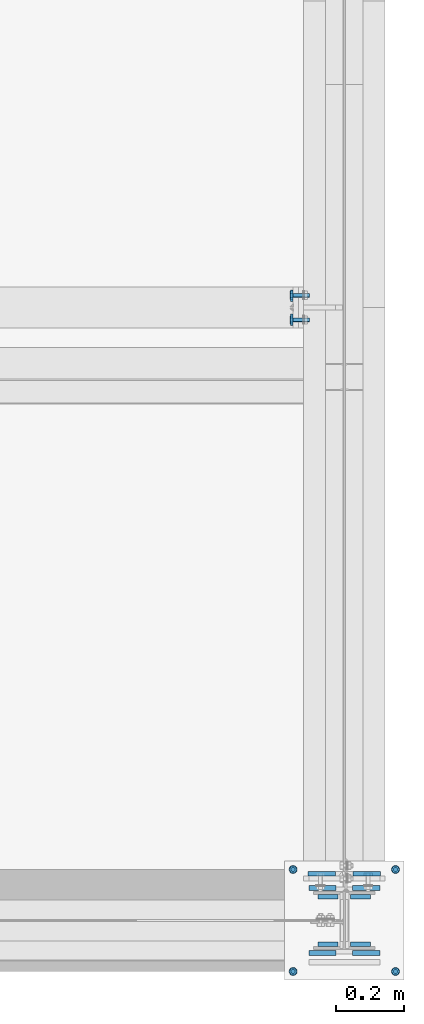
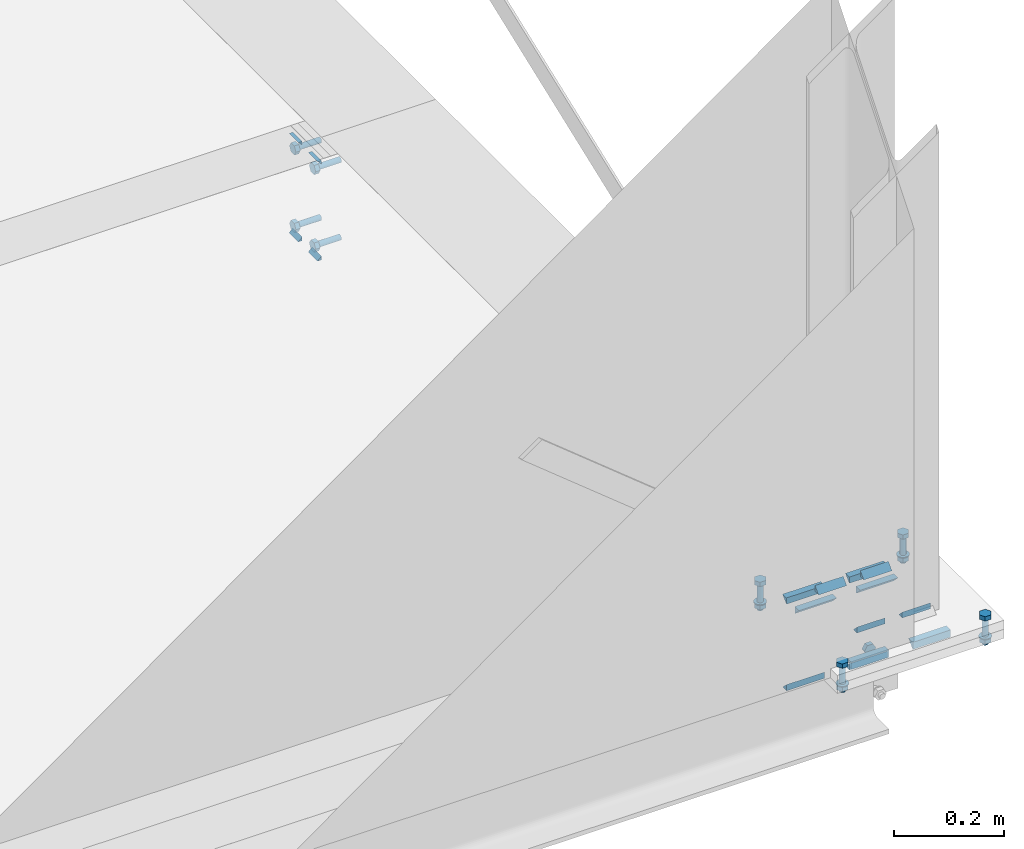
# One storey, part 55 of 66: 28 fasteners, 25 mechanical fasteners.
"""IFC4 building model written with IfcOpenShell, lengths in metres."""

from ifc_helpers import new_model, si_unit, frame, origin_with_axes, place, context, project, spatial, polyline, outline, extrude, type_object, element, save


model = new_model("IFC4")

# Units and contexts
model_context = context("Model", 3, precision=1e-05, world=origin_with_axes())
ifc_project = project(units=[si_unit("LENGTHUNIT", "METRE"), si_unit("AREAUNIT", "SQUARE_METRE"), si_unit("VOLUMEUNIT", "CUBIC_METRE"), si_unit("MASSUNIT", "GRAM", prefix="KILO"), si_unit("TIMEUNIT", "SECOND"), si_unit("PLANEANGLEUNIT", "RADIAN"), si_unit("SOLIDANGLEUNIT", "STERADIAN"), si_unit("THERMODYNAMICTEMPERATUREUNIT", "DEGREE_CELSIUS")], contexts=[model_context])

# Site, building, storey
placement_1 = place(None, origin_with_axes())
site = spatial("IfcSite", under=ifc_project, at=placement_1, Name="Italia", CompositionType="ELEMENT")
building = spatial("IfcBuilding", under=site, at=placement_1, Name="Uffici", CompositionType="ELEMENT")
storey_placement = place(None, frame((0.0, 0.0, 3.299999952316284), z_axis=(0.0, 0.0, 1.0), x_axis=(1.0, 0.0, 0.0)))
storey = spatial("IfcBuildingStorey", under=building, at=storey_placement, Name="Storey 1", CompositionType="ELEMENT", Elevation=3.299999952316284)

# Fasteners
fastener_type_1 = type_object("IfcFastenerType", Name="Collegamenti -005_-004 -015_-014 0115_0114", PredefinedType="WELD")
placement_2 = place(placement_1, origin_with_axes())
fastener_1_placement = place(placement_2, origin_with_axes())
element("IfcFastener", 1, at=fastener_1_placement, inside=storey, type_object=fastener_type_1, Name="Collegamenti -005_-004 -015_-014 0115_0114", context=model_context, shape_type="SweptSolid", body=[
    extrude(outline(polyline([(0.0, 0.0), (-0.00817299, 0.00792813), (0.0, 0.00792813), (0.0, 0.0)])), frame((13.8201, 1.77862, 3.28232), z_axis=(0.0, -1.0, 0.0), x_axis=(1.0, 0.0, 0.0)), (0.0, 0.0, 1.0), 0.0339999),
])
fastener_type_2 = type_object("IfcFastenerType", Name="Collegamenti -005_-004 -015_-014 0115_0114", PredefinedType="WELD")
fastener_2_placement = place(placement_2, origin_with_axes())
element("IfcFastener", 2, at=fastener_2_placement, inside=storey, type_object=fastener_type_2, Name="Collegamenti -005_-004 -015_-014 0115_0114", context=model_context, shape_type="SweptSolid", body=[
    extrude(outline(polyline([(0.0, 0.0), (0.00817299, -0.00792813), (0.0, -0.00792813), (0.0, 0.0)])), frame((13.8201, 1.74462, 3.07768), z_axis=(0.0, 1.0, 0.0), x_axis=(-1.0, 0.0, 0.0)), (0.0, 0.0, 1.0), 0.0339999),
])
fastener_type_3 = type_object("IfcFastenerType", Name="Collegamenti -005_-004 -015_-014 0115_0114", PredefinedType="WELD")
fastener_3_placement = place(placement_2, origin_with_axes())
element("IfcFastener", 3, at=fastener_3_placement, inside=storey, type_object=fastener_type_3, Name="Collegamenti -005_-004 -015_-014 0115_0114", context=model_context, shape_type="SweptSolid", body=[
    extrude(outline(polyline([(0.0, 0.0), (0.00817299, -0.00792813), (0.0, -0.00792813), (0.0, 0.0)])), frame((13.8201, 1.81472, 3.07768), z_axis=(0.0, 1.0, 0.0), x_axis=(-1.0, 0.0, 0.0)), (0.0, 0.0, 1.0), 0.0339999),
])
fastener_type_4 = type_object("IfcFastenerType", Name="Collegamenti -005_-004 -015_-014 0115_0114", PredefinedType="WELD")
fastener_4_placement = place(placement_2, origin_with_axes())
element("IfcFastener", 4, at=fastener_4_placement, inside=storey, type_object=fastener_type_4, Name="Collegamenti -005_-004 -015_-014 0115_0114", context=model_context, shape_type="SweptSolid", body=[
    extrude(outline(polyline([(0.0, 0.0), (-0.00817299, 0.00792813), (0.0, 0.00792813), (0.0, 0.0)])), frame((13.8201, 1.84872, 3.28232), z_axis=(0.0, -1.0, 0.0), x_axis=(1.0, 0.0, 0.0)), (0.0, 0.0, 1.0), 0.0339999),
])
fastener_type_5 = type_object("IfcFastenerType", Name="Collegamenti -005_-004 -015_-014 0115_0114", PredefinedType="WELD")
fastener_5_placement = place(placement_2, origin_with_axes())
element("IfcFastener", 5, at=fastener_5_placement, inside=storey, type_object=fastener_type_5, Name="Collegamenti -005_-004 -015_-014 0115_0114", context=model_context, shape_type="SweptSolid", body=[
    extrude(outline(polyline([(0.0, 0.0), (-0.00817299, 0.00792813), (0.0, 0.00792813), (0.0, 0.0)])), frame((13.8201, 1.77862, 3.28232), z_axis=(0.0, -1.0, 0.0), x_axis=(1.0, 0.0, 0.0)), (0.0, 0.0, 1.0), 0.0339999),
])
fastener_type_6 = type_object("IfcFastenerType", Name="Collegamenti -005_-004 -015_-014 0115_0114", PredefinedType="WELD")
fastener_6_placement = place(placement_2, origin_with_axes())
element("IfcFastener", 6, at=fastener_6_placement, inside=storey, type_object=fastener_type_6, Name="Collegamenti -005_-004 -015_-014 0115_0114", context=model_context, shape_type="SweptSolid", body=[
    extrude(outline(polyline([(0.0, 0.0), (0.00817299, -0.00792813), (0.0, -0.00792813), (0.0, 0.0)])), frame((13.8201, 1.74462, 3.07768), z_axis=(0.0, 1.0, 0.0), x_axis=(-1.0, 0.0, 0.0)), (0.0, 0.0, 1.0), 0.0339999),
])
fastener_type_7 = type_object("IfcFastenerType", Name="Collegamenti -005_-004 -015_-014 0115_0114", PredefinedType="WELD")
fastener_7_placement = place(placement_2, origin_with_axes())
element("IfcFastener", 7, at=fastener_7_placement, inside=storey, type_object=fastener_type_7, Name="Collegamenti -005_-004 -015_-014 0115_0114", context=model_context, shape_type="SweptSolid", body=[
    extrude(outline(polyline([(0.0, 0.0), (0.00817299, -0.00792813), (0.0, -0.00792813), (0.0, 0.0)])), frame((13.8201, 1.81472, 3.07768), z_axis=(0.0, 1.0, 0.0), x_axis=(-1.0, 0.0, 0.0)), (0.0, 0.0, 1.0), 0.0339999),
])
fastener_type_8 = type_object("IfcFastenerType", Name="Collegamenti -005_-004 -015_-014 0115_0114", PredefinedType="WELD")
fastener_8_placement = place(placement_2, origin_with_axes())
element("IfcFastener", 8, at=fastener_8_placement, inside=storey, type_object=fastener_type_8, Name="Collegamenti -005_-004 -015_-014 0115_0114", context=model_context, shape_type="SweptSolid", body=[
    extrude(outline(polyline([(0.0, 0.0), (-0.00817299, 0.00792813), (0.0, 0.00792813), (0.0, 0.0)])), frame((13.8201, 1.84872, 3.28232), z_axis=(0.0, -1.0, 0.0), x_axis=(1.0, 0.0, 0.0)), (0.0, 0.0, 1.0), 0.0339999),
])

# Mechanical fasteners
mechanical_fastener_type_1 = type_object("IfcMechanicalFastenerType", Name="Collegamenti -005_-004 -015_-014 0115_0114", PredefinedType="BOLT")
mechanical_fastener_1_placement = place(placement_2, origin_with_axes())
element("IfcMechanicalFastener", 9, at=mechanical_fastener_1_placement, inside=storey, type_object=mechanical_fastener_type_1, Name="Collegamenti -005_-004 -015_-014 0115_0114", NominalDiameter=0.0119999, context=model_context, shape_type="SweptSolid", body=[
    extrude(outline(polyline([(0.0, 0.0), (-0.0120001, 0.0), (-0.018, 0.0103924), (-0.0120001, 0.0207846), (0.0, 0.0207846), (0.00599992, 0.0103924), (0.0, 0.0)])), frame((13.82, 1.82667, 3.08361), z_axis=(-1.0, 0.0, 0.0), x_axis=(0.0, -1.0, 0.0)), (0.0, 0.0, 1.0), 0.00960064),
])
mechanical_fastener_type_2 = type_object("IfcMechanicalFastenerType", Name="Collegamenti -005_-004 -015_-014 0115_0114", PredefinedType="BOLT")
mechanical_fastener_2_placement = place(placement_2, origin_with_axes())
element("IfcMechanicalFastener", 10, at=mechanical_fastener_2_placement, inside=storey, type_object=mechanical_fastener_type_2, Name="Collegamenti -005_-004 -015_-014 0115_0114", NominalDiameter=0.012, context=model_context, shape_type="SweptSolid", body=[
    extrude(outline(polyline([(0.0, 0.0), (-0.000204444, -0.00155282), (-0.000803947, -0.00300002), (-0.00175738, -0.00424266), (-0.00300002, -0.00519609), (-0.0044471, -0.00579548), (-0.00600004, -0.00600004), (-0.00755298, -0.00579548), (-0.00900006, -0.00519609), (-0.0102427, -0.00424266), (-0.0111961, -0.00300002), (-0.0117956, -0.00155282), (-0.0120001, 0.0), (-0.0117956, 0.00155282), (-0.0111961, 0.00300002), (-0.0102427, 0.00424266), (-0.00900006, 0.00519609), (-0.00755298, 0.00579548), (-0.00600004, 0.00600004), (-0.0044471, 0.00579548), (-0.00300002, 0.00519609), (-0.00175738, 0.00424266), (-0.000803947, 0.00300002), (-0.000204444, 0.00155282), (0.0, 0.0)])), frame((13.868, 1.82667, 3.094), z_axis=(-1.0, 0.0, 0.0), x_axis=(0.0, -1.0, 0.0)), (0.0, 0.0, 1.0), 0.0479994),
])
mechanical_fastener_type_3 = type_object("IfcMechanicalFastenerType", Name="Collegamenti -005_-004 -015_-014 0115_0114", PredefinedType="BOLT")
mechanical_fastener_3_placement = place(placement_2, origin_with_axes())
element("IfcMechanicalFastener", 11, at=mechanical_fastener_3_placement, inside=storey, type_object=mechanical_fastener_type_3, Name="Collegamenti -005_-004 -015_-014 0115_0114", NominalDiameter=0.0119999, context=model_context, shape_type="SweptSolid", body=[
    extrude(outline(polyline([(0.0, 0.0), (-0.0120001, 0.0), (-0.018, 0.0103924), (-0.0120001, 0.0207846), (0.0, 0.0207846), (0.00599992, 0.0103924), (0.0, 0.0)])), frame((13.82, 1.75467, 3.08361), z_axis=(-1.0, 0.0, 0.0), x_axis=(0.0, -1.0, 0.0)), (0.0, 0.0, 1.0), 0.00960064),
])
mechanical_fastener_type_4 = type_object("IfcMechanicalFastenerType", Name="Collegamenti -005_-004 -015_-014 0115_0114", PredefinedType="BOLT")
mechanical_fastener_4_placement = place(placement_2, origin_with_axes())
element("IfcMechanicalFastener", 12, at=mechanical_fastener_4_placement, inside=storey, type_object=mechanical_fastener_type_4, Name="Collegamenti -005_-004 -015_-014 0115_0114", NominalDiameter=0.012, context=model_context, shape_type="SweptSolid", body=[
    extrude(outline(polyline([(0.0, 0.0), (-0.000204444, -0.00155282), (-0.000803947, -0.00300002), (-0.00175738, -0.00424266), (-0.00300002, -0.00519609), (-0.0044471, -0.00579548), (-0.00600004, -0.00600004), (-0.00755298, -0.00579548), (-0.00900006, -0.00519609), (-0.0102427, -0.00424266), (-0.0111961, -0.00300002), (-0.0117956, -0.00155282), (-0.0120001, 0.0), (-0.0117956, 0.00155282), (-0.0111961, 0.00300002), (-0.0102427, 0.00424266), (-0.00900006, 0.00519609), (-0.00755298, 0.00579548), (-0.00600004, 0.00600004), (-0.0044471, 0.00579548), (-0.00300002, 0.00519609), (-0.00175738, 0.00424266), (-0.000803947, 0.00300002), (-0.000204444, 0.00155282), (0.0, 0.0)])), frame((13.868, 1.75467, 3.094), z_axis=(-1.0, 0.0, 0.0), x_axis=(0.0, -1.0, 0.0)), (0.0, 0.0, 1.0), 0.0479994),
])
mechanical_fastener_type_5 = type_object("IfcMechanicalFastenerType", Name="Collegamenti -005_-004 -015_-014 0115_0114", PredefinedType="BOLT")
mechanical_fastener_5_placement = place(placement_2, origin_with_axes())
element("IfcMechanicalFastener", 13, at=mechanical_fastener_5_placement, inside=storey, type_object=mechanical_fastener_type_5, Name="Collegamenti -005_-004 -015_-014 0115_0114", NominalDiameter=0.0119999, context=model_context, shape_type="SweptSolid", body=[
    extrude(outline(polyline([(0.0, 0.0), (-0.0120001, 0.0), (-0.018, 0.0103922), (-0.0120001, 0.0207846), (0.0, 0.0207846), (0.00599992, 0.0103922), (0.0, 0.0)])), frame((13.82, 1.82667, 3.25561), z_axis=(-1.0, 0.0, 0.0), x_axis=(0.0, -1.0, 0.0)), (0.0, 0.0, 1.0), 0.00960064),
])
mechanical_fastener_type_6 = type_object("IfcMechanicalFastenerType", Name="Collegamenti -005_-004 -015_-014 0115_0114", PredefinedType="BOLT")
mechanical_fastener_6_placement = place(placement_2, origin_with_axes())
element("IfcMechanicalFastener", 14, at=mechanical_fastener_6_placement, inside=storey, type_object=mechanical_fastener_type_6, Name="Collegamenti -005_-004 -015_-014 0115_0114", NominalDiameter=0.012, context=model_context, shape_type="SweptSolid", body=[
    extrude(outline(polyline([(0.0, 0.0), (-0.000204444, -0.00155282), (-0.000803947, -0.00300002), (-0.00175738, -0.00424266), (-0.00300002, -0.00519609), (-0.0044471, -0.00579548), (-0.00600004, -0.00600004), (-0.00755298, -0.00579548), (-0.00900006, -0.00519609), (-0.0102427, -0.00424266), (-0.0111961, -0.00300002), (-0.0117956, -0.00155282), (-0.0120001, 0.0), (-0.0117956, 0.00155282), (-0.0111961, 0.00300002), (-0.0102427, 0.00424266), (-0.00900006, 0.00519609), (-0.00755298, 0.00579548), (-0.00600004, 0.00600004), (-0.0044471, 0.00579548), (-0.00300002, 0.00519609), (-0.00175738, 0.00424266), (-0.000803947, 0.00300002), (-0.000204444, 0.00155282), (0.0, 0.0)])), frame((13.868, 1.82667, 3.266), z_axis=(-1.0, 0.0, 0.0), x_axis=(0.0, -1.0, 0.0)), (0.0, 0.0, 1.0), 0.0479994),
])
mechanical_fastener_type_7 = type_object("IfcMechanicalFastenerType", Name="Collegamenti -005_-004 -015_-014 0115_0114", PredefinedType="BOLT")
mechanical_fastener_7_placement = place(placement_2, origin_with_axes())
element("IfcMechanicalFastener", 15, at=mechanical_fastener_7_placement, inside=storey, type_object=mechanical_fastener_type_7, Name="Collegamenti -005_-004 -015_-014 0115_0114", NominalDiameter=0.0119999, context=model_context, shape_type="SweptSolid", body=[
    extrude(outline(polyline([(0.0, 0.0), (-0.0120001, 0.0), (-0.018, 0.0103922), (-0.0120001, 0.0207846), (0.0, 0.0207846), (0.00599992, 0.0103922), (0.0, 0.0)])), frame((13.82, 1.75467, 3.25561), z_axis=(-1.0, 0.0, 0.0), x_axis=(0.0, -1.0, 0.0)), (0.0, 0.0, 1.0), 0.00960064),
])
mechanical_fastener_type_8 = type_object("IfcMechanicalFastenerType", Name="Collegamenti -005_-004 -015_-014 0115_0114", PredefinedType="BOLT")
mechanical_fastener_8_placement = place(placement_2, origin_with_axes())
element("IfcMechanicalFastener", 16, at=mechanical_fastener_8_placement, inside=storey, type_object=mechanical_fastener_type_8, Name="Collegamenti -005_-004 -015_-014 0115_0114", NominalDiameter=0.012, context=model_context, shape_type="SweptSolid", body=[
    extrude(outline(polyline([(0.0, 0.0), (-0.000204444, -0.00155282), (-0.000803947, -0.00300002), (-0.00175738, -0.00424266), (-0.00300002, -0.00519609), (-0.0044471, -0.00579548), (-0.00600004, -0.00600004), (-0.00755298, -0.00579548), (-0.00900006, -0.00519609), (-0.0102427, -0.00424266), (-0.0111961, -0.00300002), (-0.0117956, -0.00155282), (-0.0120001, 0.0), (-0.0117956, 0.00155282), (-0.0111961, 0.00300002), (-0.0102427, 0.00424266), (-0.00900006, 0.00519609), (-0.00755298, 0.00579548), (-0.00600004, 0.00600004), (-0.0044471, 0.00579548), (-0.00300002, 0.00519609), (-0.00175738, 0.00424266), (-0.000803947, 0.00300002), (-0.000204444, 0.00155282), (0.0, 0.0)])), frame((13.868, 1.75467, 3.266), z_axis=(-1.0, 0.0, 0.0), x_axis=(0.0, -1.0, 0.0)), (0.0, 0.0, 1.0), 0.0479994),
])

# Fasteners
fastener_type_9 = type_object("IfcFastenerType", Name="Collegamenti 0101_0201 0102_0202 0103_0203 0104_0204 0105_0205", PredefinedType="WELD")
fastener_9_placement = place(placement_2, origin_with_axes())
element("IfcFastener", 17, at=fastener_9_placement, inside=storey, type_object=fastener_type_9, Name="Collegamenti 0101_0201 0102_0202 0103_0203 0104_0204 0105_0205", context=model_context, shape_type="SweptSolid", body=[
    extrude(outline(polyline([(0.0, 0.0), (0.0127782, 0.0131733), (0.0127782, 0.0), (0.0, 0.0)])), frame((13.988, 0.0632718, 3.31995), z_axis=(1.0, 0.0, 0.0), x_axis=(0.0, 1.0, 0.0)), (0.0, 0.0, 1.0), 0.0591002),
])
fastener_type_10 = type_object("IfcFastenerType", Name="Collegamenti 0101_0201 0102_0202 0103_0203 0104_0204 0105_0205", PredefinedType="WELD")
fastener_10_placement = place(placement_2, origin_with_axes())
element("IfcFastener", 18, at=fastener_10_placement, inside=storey, type_object=fastener_type_10, Name="Collegamenti 0101_0201 0102_0202 0103_0203 0104_0204 0105_0205", context=model_context, shape_type="SweptSolid", body=[
    extrude(outline(polyline([(0.0, 0.0), (0.0127782, 0.0131733), (0.0127782, 0.0), (0.0, 0.0)])), frame((14.0471, -0.0632718, 3.31995), z_axis=(-1.0, 0.0, 0.0), x_axis=(0.0, -1.0, 0.0)), (0.0, 0.0, 1.0), 0.0591002),
])
fastener_type_11 = type_object("IfcFastenerType", Name="Collegamenti 0101_0201 0102_0202 0103_0203 0104_0204 0105_0205", PredefinedType="WELD")
fastener_11_placement = place(placement_2, origin_with_axes())
element("IfcFastener", 19, at=fastener_11_placement, inside=storey, type_object=fastener_type_11, Name="Collegamenti 0101_0201 0102_0202 0103_0203 0104_0204 0105_0205", context=model_context, shape_type="SweptSolid", body=[
    extrude(outline(polyline([(0.0, 0.0), (0.0127782, 0.0131733), (0.0127782, 0.0), (0.0, 0.0)])), frame((13.9521, -0.0632718, 3.31995), z_axis=(-1.0, 0.0, 0.0), x_axis=(0.0, -1.0, 0.0)), (0.0, 0.0, 1.0), 0.0591002),
])
fastener_type_12 = type_object("IfcFastenerType", Name="Collegamenti 0101_0201 0102_0202 0103_0203 0104_0204 0105_0205", PredefinedType="WELD")
fastener_12_placement = place(placement_2, origin_with_axes())
element("IfcFastener", 20, at=fastener_12_placement, inside=storey, type_object=fastener_type_12, Name="Collegamenti 0101_0201 0102_0202 0103_0203 0104_0204 0105_0205", context=model_context, shape_type="SweptSolid", body=[
    extrude(outline(polyline([(0.0, 0.0), (0.0127782, 0.0131733), (0.0127782, 0.0), (0.0, 0.0)])), frame((13.893, 0.0632718, 3.31995), z_axis=(1.0, 0.0, 0.0), x_axis=(0.0, 1.0, 0.0)), (0.0, 0.0, 1.0), 0.0591002),
])
fastener_type_13 = type_object("IfcFastenerType", Name="Collegamenti 0101_0201 0102_0202 0103_0203 0104_0204 0105_0205", PredefinedType="WELD")
fastener_13_placement = place(placement_2, origin_with_axes())
element("IfcFastener", 21, at=fastener_13_placement, inside=storey, type_object=fastener_type_13, Name="Collegamenti 0101_0201 0102_0202 0103_0203 0104_0204 0105_0205", context=model_context, shape_type="SweptSolid", body=[
    extrude(outline(polyline([(0.0, 0.0), (0.0127782, 0.0131733), (0.0127782, 0.0), (0.0, 0.0)])), frame((13.988, 0.0632718, 3.31995), z_axis=(1.0, 0.0, 0.0), x_axis=(0.0, 1.0, 0.0)), (0.0, 0.0, 1.0), 0.0591002),
])
fastener_type_14 = type_object("IfcFastenerType", Name="Collegamenti 0101_0201 0102_0202 0103_0203 0104_0204 0105_0205", PredefinedType="WELD")
fastener_14_placement = place(placement_2, origin_with_axes())
element("IfcFastener", 22, at=fastener_14_placement, inside=storey, type_object=fastener_type_14, Name="Collegamenti 0101_0201 0102_0202 0103_0203 0104_0204 0105_0205", context=model_context, shape_type="SweptSolid", body=[
    extrude(outline(polyline([(0.0, 0.0), (0.0127782, 0.0131733), (0.0127782, 0.0), (0.0, 0.0)])), frame((14.0471, -0.0632718, 3.31995), z_axis=(-1.0, 0.0, 0.0), x_axis=(0.0, -1.0, 0.0)), (0.0, 0.0, 1.0), 0.0591002),
])
fastener_type_15 = type_object("IfcFastenerType", Name="Collegamenti 0101_0201 0102_0202 0103_0203 0104_0204 0105_0205", PredefinedType="WELD")
fastener_15_placement = place(placement_2, origin_with_axes())
element("IfcFastener", 23, at=fastener_15_placement, inside=storey, type_object=fastener_type_15, Name="Collegamenti 0101_0201 0102_0202 0103_0203 0104_0204 0105_0205", context=model_context, shape_type="SweptSolid", body=[
    extrude(outline(polyline([(0.0, 0.0), (0.0127782, 0.0131733), (0.0127782, 0.0), (0.0, 0.0)])), frame((13.9521, -0.0632718, 3.31995), z_axis=(-1.0, 0.0, 0.0), x_axis=(0.0, -1.0, 0.0)), (0.0, 0.0, 1.0), 0.0591002),
])
fastener_type_16 = type_object("IfcFastenerType", Name="Collegamenti 0101_0201 0102_0202 0103_0203 0104_0204 0105_0205", PredefinedType="WELD")
fastener_16_placement = place(placement_2, origin_with_axes())
element("IfcFastener", 24, at=fastener_16_placement, inside=storey, type_object=fastener_type_16, Name="Collegamenti 0101_0201 0102_0202 0103_0203 0104_0204 0105_0205", context=model_context, shape_type="SweptSolid", body=[
    extrude(outline(polyline([(0.0, 0.0), (0.0127782, 0.0131733), (0.0127782, 0.0), (0.0, 0.0)])), frame((13.893, 0.0632718, 3.31995), z_axis=(1.0, 0.0, 0.0), x_axis=(0.0, 1.0, 0.0)), (0.0, 0.0, 1.0), 0.0591002),
])
fastener_type_17 = type_object("IfcFastenerType", Name="Collegamenti 0101_0201 0102_0202 0103_0203 0104_0204 0105_0205", PredefinedType="WELD")
fastener_17_placement = place(placement_2, origin_with_axes())
element("IfcFastener", 25, at=fastener_17_placement, inside=storey, type_object=fastener_type_17, Name="Collegamenti 0101_0201 0102_0202 0103_0203 0104_0204 0105_0205", context=model_context, shape_type="SweptSolid", body=[
    extrude(outline(polyline([(0.0, 0.0), (0.0153518, -0.0158267), (0.0153518, 0.0), (0.0, 0.0)])), frame((13.9947, 0.0875982, 3.27995), z_axis=(1.0, -9.3895729e-08, 0.0), x_axis=(9.3895729e-08, 1.0, 0.0)), (0.0, 0.0, 1.0), 0.0793495),
])
fastener_type_18 = type_object("IfcFastenerType", Name="Collegamenti 0101_0201 0102_0202 0103_0203 0104_0204 0105_0205", PredefinedType="WELD")
fastener_18_placement = place(placement_2, origin_with_axes())
element("IfcFastener", 26, at=fastener_18_placement, inside=storey, type_object=fastener_type_18, Name="Collegamenti 0101_0201 0102_0202 0103_0203 0104_0204 0105_0205", context=model_context, shape_type="SweptSolid", body=[
    extrude(outline(polyline([(0.0, 0.0), (0.0153518, -0.0158267), (0.0153518, 0.0), (0.0, 0.0)])), frame((14.0741, -0.0875982, 3.27995), z_axis=(-1.0, 9.3895729e-08, 0.0), x_axis=(-9.3895729e-08, -1.0, 0.0)), (0.0, 0.0, 1.0), 0.0793495),
])
fastener_type_19 = type_object("IfcFastenerType", Name="Collegamenti 0101_0201 0102_0202 0103_0203 0104_0204 0105_0205", PredefinedType="WELD")
fastener_19_placement = place(placement_2, origin_with_axes())
element("IfcFastener", 27, at=fastener_19_placement, inside=storey, type_object=fastener_type_19, Name="Collegamenti 0101_0201 0102_0202 0103_0203 0104_0204 0105_0205", context=model_context, shape_type="SweptSolid", body=[
    extrude(outline(polyline([(0.0, 0.0), (0.0153518, -0.0158267), (0.0153518, 0.0), (0.0, 0.0)])), frame((13.9453, -0.0875982, 3.27995), z_axis=(-1.0, 9.3895729e-08, 0.0), x_axis=(-9.3895729e-08, -1.0, 0.0)), (0.0, 0.0, 1.0), 0.0793495),
])
fastener_type_20 = type_object("IfcFastenerType", Name="Collegamenti 0101_0201 0102_0202 0103_0203 0104_0204 0105_0205", PredefinedType="WELD")
fastener_20_placement = place(placement_2, origin_with_axes())
element("IfcFastener", 28, at=fastener_20_placement, inside=storey, type_object=fastener_type_20, Name="Collegamenti 0101_0201 0102_0202 0103_0203 0104_0204 0105_0205", context=model_context, shape_type="SweptSolid", body=[
    extrude(outline(polyline([(0.0, 0.0), (0.0153518, -0.0158267), (0.0153518, 0.0), (0.0, 0.0)])), frame((13.866, 0.0875982, 3.27995), z_axis=(1.0, -9.3895729e-08, 0.0), x_axis=(9.3895729e-08, 1.0, 0.0)), (0.0, 0.0, 1.0), 0.0793495),
])

# Mechanical fasteners
mechanical_fastener_type_9 = type_object("IfcMechanicalFastenerType", Name="Collegamenti 0101_0201 0102_0202 0103_0203 0104_0204 0105_0205", PredefinedType="BOLT")
mechanical_fastener_9_placement = place(placement_2, origin_with_axes())
element("IfcMechanicalFastener", 29, at=mechanical_fastener_9_placement, inside=storey, type_object=mechanical_fastener_type_9, Name="Collegamenti 0101_0201 0102_0202 0103_0203 0104_0204 0105_0205", NominalDiameter=0.0119998, context=model_context, shape_type="SweptSolid", body=[
    extrude(outline(polyline([(0.0, 0.0), (0.0, 0.0120001), (0.0103923, 0.0179996), (0.0207846, 0.0120001), (0.0207846, 0.0), (0.0103923, -0.00599957), (0.0, 0.0)])), frame((13.826, -0.159892, 3.32), z_axis=(0.0, 0.0, 1.0), x_axis=(0.0, 1.0, 0.0)), (0.0, 0.0, 1.0), 0.00959992),
])
mechanical_fastener_type_10 = type_object("IfcMechanicalFastenerType", Name="Collegamenti 0101_0201 0102_0202 0103_0203 0104_0204 0105_0205", PredefinedType="BOLT")
mechanical_fastener_10_placement = place(placement_2, origin_with_axes())
element("IfcMechanicalFastener", 30, at=mechanical_fastener_10_placement, inside=storey, type_object=mechanical_fastener_type_10, Name="Collegamenti 0101_0201 0102_0202 0103_0203 0104_0204 0105_0205", NominalDiameter=0.012, context=model_context, shape_type="SweptSolid", body=[
    extrude(outline(polyline([(0.0, 0.0), (-0.000204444, -0.00155258), (-0.000803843, -0.00300026), (-0.00175735, -0.0042429), (-0.00299999, -0.00519657), (-0.00444709, -0.00579548), (-0.006, -0.00599957), (-0.00755291, -0.00579548), (-0.009, -0.00519657), (-0.0102426, -0.0042429), (-0.0111962, -0.00300026), (-0.0117956, -0.00155258), (-0.012, 0.0), (-0.0117956, 0.00155258), (-0.0111962, 0.00300026), (-0.0102426, 0.0042429), (-0.009, 0.00519657), (-0.00755291, 0.00579548), (-0.006, 0.00599957), (-0.00444709, 0.00579548), (-0.00299999, 0.00519657), (-0.00175735, 0.0042429), (-0.000803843, 0.00300026), (-0.000204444, 0.00155258), (0.0, 0.0)])), frame((13.82, -0.1435, 3.262), z_axis=(0.0, 0.0, 1.0), x_axis=(0.0, 1.0, 0.0)), (0.0, 0.0, 1.0), 0.0580001),
])
mechanical_fastener_type_11 = type_object("IfcMechanicalFastenerType", Name="Collegamenti 0101_0201 0102_0202 0103_0203 0104_0204 0105_0205", PredefinedType="BOLT")
mechanical_fastener_11_placement = place(placement_2, origin_with_axes())
element("IfcMechanicalFastener", 31, at=mechanical_fastener_11_placement, inside=storey, type_object=mechanical_fastener_type_11, Name="Collegamenti 0101_0201 0102_0202 0103_0203 0104_0204 0105_0205", NominalDiameter=0.0119998, context=model_context, shape_type="SweptSolid", body=[
    extrude(outline(polyline([(0.0, 0.0), (0.0, 0.0120001), (0.0103923, 0.0179996), (0.0207846, 0.0120001), (0.0207846, 0.0), (0.0103923, -0.00599957), (0.0, 0.0)])), frame((13.826, -0.159892, 3.2684), z_axis=(0.0, 0.0, 1.0), x_axis=(0.0, 1.0, 0.0)), (0.0, 0.0, 1.0), 0.00959992),
])
mechanical_fastener_type_12 = type_object("IfcMechanicalFastenerType", Name="Collegamenti 0101_0201 0102_0202 0103_0203 0104_0204 0105_0205", PredefinedType="BOLT")
mechanical_fastener_12_placement = place(placement_2, origin_with_axes())
element("IfcMechanicalFastener", 32, at=mechanical_fastener_12_placement, inside=storey, type_object=mechanical_fastener_type_12, Name="Collegamenti 0101_0201 0102_0202 0103_0203 0104_0204 0105_0205", NominalDiameter=0.024, context=model_context, shape_type="SweptSolid", body=[
    extrude(outline(polyline([(0.0, 0.0), (-0.000408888, -0.00310612), (-0.00160769, -0.00599957), (-0.00351471, -0.00848484), (-0.006, -0.0103922), (-0.00889416, -0.011591), (-0.012, -0.0120001), (-0.0151058, -0.011591), (-0.018, -0.0103922), (-0.0204853, -0.00848484), (-0.0223923, -0.00599957), (-0.0235911, -0.00310612), (-0.024, 0.0), (-0.0235911, 0.00310612), (-0.0223923, 0.00599957), (-0.0204853, 0.00848484), (-0.018, 0.0103922), (-0.0151058, 0.011591), (-0.012, 0.0120001), (-0.00889416, 0.011591), (-0.006, 0.0103922), (-0.00351471, 0.00848484), (-0.00160769, 0.00599957), (-0.000408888, 0.00310612), (0.0, 0.0)])), frame((13.82, -0.1375, 3.278), z_axis=(0.0, 0.0, 1.0), x_axis=(0.0, 1.0, 0.0)), (0.0, 0.0, 1.0), 0.00200009),
])
mechanical_fastener_type_13 = type_object("IfcMechanicalFastenerType", Name="Collegamenti 0101_0201 0102_0202 0103_0203 0104_0204 0105_0205", PredefinedType="BOLT")
mechanical_fastener_13_placement = place(placement_2, origin_with_axes())
element("IfcMechanicalFastener", 33, at=mechanical_fastener_13_placement, inside=storey, type_object=mechanical_fastener_type_13, Name="Collegamenti 0101_0201 0102_0202 0103_0203 0104_0204 0105_0205", NominalDiameter=0.0119998, context=model_context, shape_type="SweptSolid", body=[
    extrude(outline(polyline([(0.0, 0.0), (0.0, 0.0120001), (0.0103923, 0.0179996), (0.0207846, 0.0120001), (0.0207846, 0.0), (0.0103923, -0.00599957), (0.0, 0.0)])), frame((14.126, -0.159892, 3.32), z_axis=(0.0, 0.0, 1.0), x_axis=(0.0, 1.0, 0.0)), (0.0, 0.0, 1.0), 0.00959992),
])
mechanical_fastener_type_14 = type_object("IfcMechanicalFastenerType", Name="Collegamenti 0101_0201 0102_0202 0103_0203 0104_0204 0105_0205", PredefinedType="BOLT")
mechanical_fastener_14_placement = place(placement_2, origin_with_axes())
element("IfcMechanicalFastener", 34, at=mechanical_fastener_14_placement, inside=storey, type_object=mechanical_fastener_type_14, Name="Collegamenti 0101_0201 0102_0202 0103_0203 0104_0204 0105_0205", NominalDiameter=0.012, context=model_context, shape_type="SweptSolid", body=[
    extrude(outline(polyline([(0.0, 0.0), (-0.000204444, -0.00155258), (-0.000803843, -0.00300026), (-0.00175735, -0.0042429), (-0.00299999, -0.00519657), (-0.00444709, -0.00579548), (-0.006, -0.00599957), (-0.00755291, -0.00579548), (-0.009, -0.00519657), (-0.0102426, -0.0042429), (-0.0111962, -0.00300026), (-0.0117956, -0.00155258), (-0.012, 0.0), (-0.0117956, 0.00155258), (-0.0111962, 0.00300026), (-0.0102426, 0.0042429), (-0.009, 0.00519657), (-0.00755291, 0.00579548), (-0.006, 0.00599957), (-0.00444709, 0.00579548), (-0.00299999, 0.00519657), (-0.00175735, 0.0042429), (-0.000803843, 0.00300026), (-0.000204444, 0.00155258), (0.0, 0.0)])), frame((14.12, -0.1435, 3.262), z_axis=(0.0, 0.0, 1.0), x_axis=(0.0, 1.0, 0.0)), (0.0, 0.0, 1.0), 0.0580001),
])
mechanical_fastener_type_15 = type_object("IfcMechanicalFastenerType", Name="Collegamenti 0101_0201 0102_0202 0103_0203 0104_0204 0105_0205", PredefinedType="BOLT")
mechanical_fastener_15_placement = place(placement_2, origin_with_axes())
element("IfcMechanicalFastener", 35, at=mechanical_fastener_15_placement, inside=storey, type_object=mechanical_fastener_type_15, Name="Collegamenti 0101_0201 0102_0202 0103_0203 0104_0204 0105_0205", NominalDiameter=0.0119998, context=model_context, shape_type="SweptSolid", body=[
    extrude(outline(polyline([(0.0, 0.0), (0.0, 0.0120001), (0.0103923, 0.0179996), (0.0207846, 0.0120001), (0.0207846, 0.0), (0.0103923, -0.00599957), (0.0, 0.0)])), frame((14.126, -0.159892, 3.2684), z_axis=(0.0, 0.0, 1.0), x_axis=(0.0, 1.0, 0.0)), (0.0, 0.0, 1.0), 0.00959992),
])
mechanical_fastener_type_16 = type_object("IfcMechanicalFastenerType", Name="Collegamenti 0101_0201 0102_0202 0103_0203 0104_0204 0105_0205", PredefinedType="BOLT")
mechanical_fastener_16_placement = place(placement_2, origin_with_axes())
element("IfcMechanicalFastener", 36, at=mechanical_fastener_16_placement, inside=storey, type_object=mechanical_fastener_type_16, Name="Collegamenti 0101_0201 0102_0202 0103_0203 0104_0204 0105_0205", NominalDiameter=0.024, context=model_context, shape_type="SweptSolid", body=[
    extrude(outline(polyline([(0.0, 0.0), (-0.000408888, -0.00310612), (-0.00160769, -0.00599957), (-0.00351471, -0.00848484), (-0.006, -0.0103922), (-0.00889416, -0.011591), (-0.012, -0.0120001), (-0.0151058, -0.011591), (-0.018, -0.0103922), (-0.0204853, -0.00848484), (-0.0223923, -0.00599957), (-0.0235911, -0.00310612), (-0.024, 0.0), (-0.0235911, 0.00310612), (-0.0223923, 0.00599957), (-0.0204853, 0.00848484), (-0.018, 0.0103922), (-0.0151058, 0.011591), (-0.012, 0.0120001), (-0.00889416, 0.011591), (-0.006, 0.0103922), (-0.00351471, 0.00848484), (-0.00160769, 0.00599957), (-0.000408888, 0.00310612), (0.0, 0.0)])), frame((14.12, -0.1375, 3.278), z_axis=(0.0, 0.0, 1.0), x_axis=(0.0, 1.0, 0.0)), (0.0, 0.0, 1.0), 0.00200009),
])
mechanical_fastener_type_17 = type_object("IfcMechanicalFastenerType", Name="Collegamenti 0101_0201 0102_0202 0103_0203 0104_0204 0105_0205", PredefinedType="BOLT")
mechanical_fastener_17_placement = place(placement_2, origin_with_axes())
element("IfcMechanicalFastener", 37, at=mechanical_fastener_17_placement, inside=storey, type_object=mechanical_fastener_type_17, Name="Collegamenti 0101_0201 0102_0202 0103_0203 0104_0204 0105_0205", NominalDiameter=0.0119998, context=model_context, shape_type="SweptSolid", body=[
    extrude(outline(polyline([(0.0, 0.0), (0.0, 0.0120001), (0.0103923, 0.0179996), (0.0207846, 0.0120001), (0.0207846, 0.0), (0.0103923, -0.00599957), (0.0, 0.0)])), frame((13.826, 0.139108, 3.32), z_axis=(0.0, 0.0, 1.0), x_axis=(0.0, 1.0, 0.0)), (0.0, 0.0, 1.0), 0.00959992),
])
mechanical_fastener_type_18 = type_object("IfcMechanicalFastenerType", Name="Collegamenti 0101_0201 0102_0202 0103_0203 0104_0204 0105_0205", PredefinedType="BOLT")
mechanical_fastener_18_placement = place(placement_2, origin_with_axes())
element("IfcMechanicalFastener", 38, at=mechanical_fastener_18_placement, inside=storey, type_object=mechanical_fastener_type_18, Name="Collegamenti 0101_0201 0102_0202 0103_0203 0104_0204 0105_0205", NominalDiameter=0.012, context=model_context, shape_type="SweptSolid", body=[
    extrude(outline(polyline([(0.0, 0.0), (-0.000204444, -0.00155258), (-0.000803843, -0.00300026), (-0.00175735, -0.0042429), (-0.00299999, -0.00519657), (-0.00444709, -0.00579548), (-0.006, -0.00599957), (-0.00755291, -0.00579548), (-0.009, -0.00519657), (-0.0102426, -0.0042429), (-0.0111962, -0.00300026), (-0.0117956, -0.00155258), (-0.012, 0.0), (-0.0117956, 0.00155258), (-0.0111962, 0.00300026), (-0.0102426, 0.0042429), (-0.009, 0.00519657), (-0.00755291, 0.00579548), (-0.006, 0.00599957), (-0.00444709, 0.00579548), (-0.00299999, 0.00519657), (-0.00175735, 0.0042429), (-0.000803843, 0.00300026), (-0.000204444, 0.00155258), (0.0, 0.0)])), frame((13.82, 0.1555, 3.262), z_axis=(0.0, 0.0, 1.0), x_axis=(0.0, 1.0, 0.0)), (0.0, 0.0, 1.0), 0.0580001),
])
mechanical_fastener_type_19 = type_object("IfcMechanicalFastenerType", Name="Collegamenti 0101_0201 0102_0202 0103_0203 0104_0204 0105_0205", PredefinedType="BOLT")
mechanical_fastener_19_placement = place(placement_2, origin_with_axes())
element("IfcMechanicalFastener", 39, at=mechanical_fastener_19_placement, inside=storey, type_object=mechanical_fastener_type_19, Name="Collegamenti 0101_0201 0102_0202 0103_0203 0104_0204 0105_0205", NominalDiameter=0.0119998, context=model_context, shape_type="SweptSolid", body=[
    extrude(outline(polyline([(0.0, 0.0), (0.0, 0.0120001), (0.0103923, 0.0179996), (0.0207846, 0.0120001), (0.0207846, 0.0), (0.0103923, -0.00599957), (0.0, 0.0)])), frame((13.826, 0.139108, 3.2684), z_axis=(0.0, 0.0, 1.0), x_axis=(0.0, 1.0, 0.0)), (0.0, 0.0, 1.0), 0.00959992),
])
mechanical_fastener_type_20 = type_object("IfcMechanicalFastenerType", Name="Collegamenti 0101_0201 0102_0202 0103_0203 0104_0204 0105_0205", PredefinedType="BOLT")
mechanical_fastener_20_placement = place(placement_2, origin_with_axes())
element("IfcMechanicalFastener", 40, at=mechanical_fastener_20_placement, inside=storey, type_object=mechanical_fastener_type_20, Name="Collegamenti 0101_0201 0102_0202 0103_0203 0104_0204 0105_0205", NominalDiameter=0.024, context=model_context, shape_type="SweptSolid", body=[
    extrude(outline(polyline([(0.0, 0.0), (-0.000408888, -0.00310612), (-0.00160769, -0.00599957), (-0.00351471, -0.00848484), (-0.006, -0.0103922), (-0.00889416, -0.011591), (-0.012, -0.0120001), (-0.0151058, -0.011591), (-0.018, -0.0103922), (-0.0204853, -0.00848484), (-0.0223923, -0.00599957), (-0.0235911, -0.00310612), (-0.024, 0.0), (-0.0235911, 0.00310612), (-0.0223923, 0.00599957), (-0.0204853, 0.00848484), (-0.018, 0.0103922), (-0.0151058, 0.011591), (-0.012, 0.0120001), (-0.00889416, 0.011591), (-0.006, 0.0103922), (-0.00351471, 0.00848484), (-0.00160769, 0.00599957), (-0.000408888, 0.00310612), (0.0, 0.0)])), frame((13.82, 0.1615, 3.278), z_axis=(0.0, 0.0, 1.0), x_axis=(0.0, 1.0, 0.0)), (0.0, 0.0, 1.0), 0.00200009),
])
mechanical_fastener_type_21 = type_object("IfcMechanicalFastenerType", Name="Collegamenti 0101_0201 0102_0202 0103_0203 0104_0204 0105_0205", PredefinedType="BOLT")
mechanical_fastener_21_placement = place(placement_2, origin_with_axes())
element("IfcMechanicalFastener", 41, at=mechanical_fastener_21_placement, inside=storey, type_object=mechanical_fastener_type_21, Name="Collegamenti 0101_0201 0102_0202 0103_0203 0104_0204 0105_0205", NominalDiameter=0.0119998, context=model_context, shape_type="SweptSolid", body=[
    extrude(outline(polyline([(0.0, 0.0), (0.0, 0.0120001), (0.0103923, 0.0179996), (0.0207846, 0.0120001), (0.0207846, 0.0), (0.0103923, -0.00599957), (0.0, 0.0)])), frame((14.126, 0.139108, 3.32), z_axis=(0.0, 0.0, 1.0), x_axis=(0.0, 1.0, 0.0)), (0.0, 0.0, 1.0), 0.00959992),
])
mechanical_fastener_type_22 = type_object("IfcMechanicalFastenerType", Name="Collegamenti 0101_0201 0102_0202 0103_0203 0104_0204 0105_0205", PredefinedType="BOLT")
mechanical_fastener_22_placement = place(placement_2, origin_with_axes())
element("IfcMechanicalFastener", 42, at=mechanical_fastener_22_placement, inside=storey, type_object=mechanical_fastener_type_22, Name="Collegamenti 0101_0201 0102_0202 0103_0203 0104_0204 0105_0205", NominalDiameter=0.012, context=model_context, shape_type="SweptSolid", body=[
    extrude(outline(polyline([(0.0, 0.0), (-0.000204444, -0.00155258), (-0.000803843, -0.00300026), (-0.00175735, -0.0042429), (-0.00299999, -0.00519657), (-0.00444709, -0.00579548), (-0.006, -0.00599957), (-0.00755291, -0.00579548), (-0.009, -0.00519657), (-0.0102426, -0.0042429), (-0.0111962, -0.00300026), (-0.0117956, -0.00155258), (-0.012, 0.0), (-0.0117956, 0.00155258), (-0.0111962, 0.00300026), (-0.0102426, 0.0042429), (-0.009, 0.00519657), (-0.00755291, 0.00579548), (-0.006, 0.00599957), (-0.00444709, 0.00579548), (-0.00299999, 0.00519657), (-0.00175735, 0.0042429), (-0.000803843, 0.00300026), (-0.000204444, 0.00155258), (0.0, 0.0)])), frame((14.12, 0.1555, 3.262), z_axis=(0.0, 0.0, 1.0), x_axis=(0.0, 1.0, 0.0)), (0.0, 0.0, 1.0), 0.0580001),
])
mechanical_fastener_type_23 = type_object("IfcMechanicalFastenerType", Name="Collegamenti 0101_0201 0102_0202 0103_0203 0104_0204 0105_0205", PredefinedType="BOLT")
mechanical_fastener_23_placement = place(placement_2, origin_with_axes())
element("IfcMechanicalFastener", 43, at=mechanical_fastener_23_placement, inside=storey, type_object=mechanical_fastener_type_23, Name="Collegamenti 0101_0201 0102_0202 0103_0203 0104_0204 0105_0205", NominalDiameter=0.0119998, context=model_context, shape_type="SweptSolid", body=[
    extrude(outline(polyline([(0.0, 0.0), (0.0, 0.0120001), (0.0103923, 0.0179996), (0.0207846, 0.0120001), (0.0207846, 0.0), (0.0103923, -0.00599957), (0.0, 0.0)])), frame((14.126, 0.139108, 3.2684), z_axis=(0.0, 0.0, 1.0), x_axis=(0.0, 1.0, 0.0)), (0.0, 0.0, 1.0), 0.00959992),
])
mechanical_fastener_type_24 = type_object("IfcMechanicalFastenerType", Name="Collegamenti 0101_0201 0102_0202 0103_0203 0104_0204 0105_0205", PredefinedType="BOLT")
mechanical_fastener_24_placement = place(placement_2, origin_with_axes())
element("IfcMechanicalFastener", 44, at=mechanical_fastener_24_placement, inside=storey, type_object=mechanical_fastener_type_24, Name="Collegamenti 0101_0201 0102_0202 0103_0203 0104_0204 0105_0205", NominalDiameter=0.024, context=model_context, shape_type="SweptSolid", body=[
    extrude(outline(polyline([(0.0, 0.0), (-0.000408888, -0.00310612), (-0.00160769, -0.00599957), (-0.00351471, -0.00848484), (-0.006, -0.0103922), (-0.00889416, -0.011591), (-0.012, -0.0120001), (-0.0151058, -0.011591), (-0.018, -0.0103922), (-0.0204853, -0.00848484), (-0.0223923, -0.00599957), (-0.0235911, -0.00310612), (-0.024, 0.0), (-0.0235911, 0.00310612), (-0.0223923, 0.00599957), (-0.0204853, 0.00848484), (-0.018, 0.0103922), (-0.0151058, 0.011591), (-0.012, 0.0120001), (-0.00889416, 0.011591), (-0.006, 0.0103922), (-0.00351471, 0.00848484), (-0.00160769, 0.00599957), (-0.000408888, 0.00310612), (0.0, 0.0)])), frame((14.12, 0.1615, 3.278), z_axis=(0.0, 0.0, 1.0), x_axis=(0.0, 1.0, 0.0)), (0.0, 0.0, 1.0), 0.00200009),
])

# Fasteners
fastener_type_21 = type_object("IfcFastenerType", Name="Collegamento 0105_-005", PredefinedType="WELD")
fastener_21_placement = place(placement_2, origin_with_axes())
element("IfcFastener", 45, at=fastener_21_placement, inside=storey, type_object=fastener_type_21, Name="Collegamento 0105_-005", context=model_context, shape_type="SweptSolid", body=[
    extrude(outline(polyline([(0.0, 0.0), (-0.0141734, 0.0137482), (0.0, 0.0137482), (0.0, 0.0)])), frame((13.9441, 0.12995, 3.2693), z_axis=(-1.0, 0.0, 0.0), x_axis=(0.0, -1.0, 0.0)), (0.0, 0.0, 1.0), 0.0800991),
])
fastener_type_22 = type_object("IfcFastenerType", Name="Collegamento 0105_-005", PredefinedType="WELD")
fastener_22_placement = place(placement_2, origin_with_axes())
element("IfcFastener", 46, at=fastener_22_placement, inside=storey, type_object=fastener_type_22, Name="Collegamento 0105_-005", context=model_context, shape_type="SweptSolid", body=[
    extrude(outline(polyline([(0.0, 0.0), (0.0141734, -0.0137482), (0.0, -0.0137482), (0.0, 0.0)])), frame((13.864, 0.12995, 3.0907), z_axis=(1.0, 0.0, 0.0), x_axis=(0.0, 1.0, 0.0)), (0.0, 0.0, 1.0), 0.0800991),
])
fastener_type_23 = type_object("IfcFastenerType", Name="Collegamento 0105_-005", PredefinedType="WELD")
fastener_23_placement = place(placement_2, origin_with_axes())
element("IfcFastener", 47, at=fastener_23_placement, inside=storey, type_object=fastener_type_23, Name="Collegamento 0105_-005", context=model_context, shape_type="SweptSolid", body=[
    extrude(outline(polyline([(0.0, 0.0), (0.0141734, -0.0137482), (0.0, -0.0137482), (0.0, 0.0)])), frame((13.996, 0.12995, 3.0907), z_axis=(1.0, 0.0, 0.0), x_axis=(0.0, 1.0, 0.0)), (0.0, 0.0, 1.0), 0.0800991),
])
fastener_type_24 = type_object("IfcFastenerType", Name="Collegamento 0105_-005", PredefinedType="WELD")
fastener_24_placement = place(placement_2, origin_with_axes())
element("IfcFastener", 48, at=fastener_24_placement, inside=storey, type_object=fastener_type_24, Name="Collegamento 0105_-005", context=model_context, shape_type="SweptSolid", body=[
    extrude(outline(polyline([(0.0, 0.0), (-0.0141733, 0.0137482), (0.0, 0.0137482), (0.0, 0.0)])), frame((14.0761, 0.12995, 3.2693), z_axis=(-1.0, 0.0, 0.0), x_axis=(0.0, -1.0, 0.0)), (0.0, 0.0, 1.0), 0.0800991),
])
fastener_type_25 = type_object("IfcFastenerType", Name="Collegamento 0105_-005", PredefinedType="WELD")
fastener_25_placement = place(placement_2, origin_with_axes())
element("IfcFastener", 49, at=fastener_25_placement, inside=storey, type_object=fastener_type_25, Name="Collegamento 0105_-005", context=model_context, shape_type="SweptSolid", body=[
    extrude(outline(polyline([(0.0, 0.0), (-0.0141734, 0.0137482), (0.0, 0.0137482), (0.0, 0.0)])), frame((13.9441, 0.12995, 3.2693), z_axis=(-1.0, 0.0, 0.0), x_axis=(0.0, -1.0, 0.0)), (0.0, 0.0, 1.0), 0.0800991),
])
fastener_type_26 = type_object("IfcFastenerType", Name="Collegamento 0105_-005", PredefinedType="WELD")
fastener_26_placement = place(placement_2, origin_with_axes())
element("IfcFastener", 50, at=fastener_26_placement, inside=storey, type_object=fastener_type_26, Name="Collegamento 0105_-005", context=model_context, shape_type="SweptSolid", body=[
    extrude(outline(polyline([(0.0, 0.0), (0.0141734, -0.0137482), (0.0, -0.0137482), (0.0, 0.0)])), frame((13.864, 0.12995, 3.0907), z_axis=(1.0, 0.0, 0.0), x_axis=(0.0, 1.0, 0.0)), (0.0, 0.0, 1.0), 0.0800991),
])
fastener_type_27 = type_object("IfcFastenerType", Name="Collegamento 0105_-005", PredefinedType="WELD")
fastener_27_placement = place(placement_2, origin_with_axes())
element("IfcFastener", 51, at=fastener_27_placement, inside=storey, type_object=fastener_type_27, Name="Collegamento 0105_-005", context=model_context, shape_type="SweptSolid", body=[
    extrude(outline(polyline([(0.0, 0.0), (0.0141734, -0.0137482), (0.0, -0.0137482), (0.0, 0.0)])), frame((13.996, 0.12995, 3.0907), z_axis=(1.0, 0.0, 0.0), x_axis=(0.0, 1.0, 0.0)), (0.0, 0.0, 1.0), 0.0800991),
])
fastener_type_28 = type_object("IfcFastenerType", Name="Collegamento 0105_-005", PredefinedType="WELD")
fastener_28_placement = place(placement_2, origin_with_axes())
element("IfcFastener", 52, at=fastener_28_placement, inside=storey, type_object=fastener_type_28, Name="Collegamento 0105_-005", context=model_context, shape_type="SweptSolid", body=[
    extrude(outline(polyline([(0.0, 0.0), (-0.0141733, 0.0137482), (0.0, 0.0137482), (0.0, 0.0)])), frame((14.0761, 0.12995, 3.2693), z_axis=(-1.0, 0.0, 0.0), x_axis=(0.0, -1.0, 0.0)), (0.0, 0.0, 1.0), 0.0800991),
])

# Mechanical fastener
mechanical_fastener_type_25 = type_object("IfcMechanicalFastenerType", Name="Collegamento 0105_-005", PredefinedType="BOLT")
mechanical_fastener_25_placement = place(placement_2, origin_with_axes())
element("IfcMechanicalFastener", 53, at=mechanical_fastener_25_placement, inside=storey, type_object=mechanical_fastener_type_25, Name="Collegamento 0105_-005", NominalDiameter=0.0119997, context=model_context, shape_type="SweptSolid", body=[
    extrude(outline(polyline([(0.0, 0.0), (-0.0120001, 0.0), (-0.0179996, 0.0103924), (-0.0120001, 0.0207846), (0.0, 0.0207846), (0.00600052, 0.0103924), (0.0, 0.0)])), frame((14.034, 0.13, 3.09661), z_axis=(0.0, 1.0, 0.0), x_axis=(-1.0, 0.0, 0.0)), (0.0, 0.0, 1.0), 0.0096),
])

save(model, "model.ifc")
